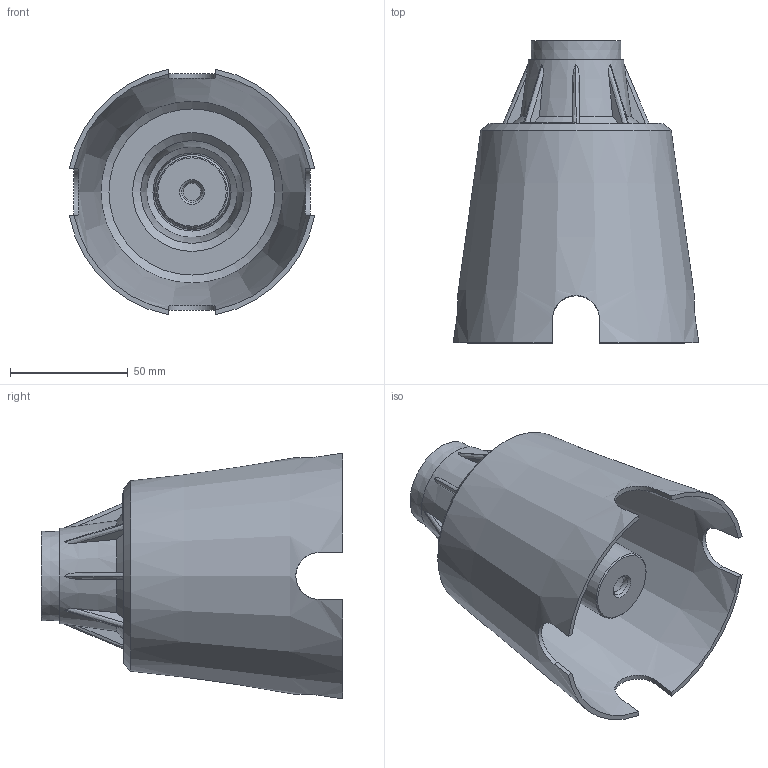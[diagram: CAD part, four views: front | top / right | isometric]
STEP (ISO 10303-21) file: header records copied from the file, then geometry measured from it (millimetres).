
FILE_DESCRIPTION(/* description */ (''),/* implementation_level */ '2;1');
FILE_NAME(/* name */ 'BUIO TRIMLESS.stp',/* time_stamp */ '2024-05-17T09:05:29+02:00',/* author */ ('n.bisotti'),/* organization */ (''),/* preprocessor_version */ 'ST-DEVELOPER v19.2',/* originating_system */ 'Autodesk Inventor 2023',/* authorisation */ '');
FILE_SCHEMA (('AUTOMOTIVE_DESIGN { 1 0 10303 214 3 1 1 }'));
Length unit declared in the file: millimetre
Products named in the file (1): Parte3
Bounding box: 104.1 x 128 x 104.1 mm (x, y, z)
Volume: 116491.5 mm3; surface area: 96889.7 mm2
Topology: 10 solids, 11 shells, 318 faces, 777 edges, 516 vertices
Faces by surface type: plane 140, bspline 116, cone 29, cylinder 28, torus 5
Full cylindrical faces by diameter (mm): 21 x1, 21.5 x1, 22 x2, 22.1 x1, 22.5 x3, 24.3 x1, 24.5 x1, 26.2 x1, 26.5 x2, 26.7 x2, 26.917 x1, 27 x1, 28 x1, 30 x3, 30.8 x1, 34 x2
Entity records: 11195 total; most frequent: CARTESIAN_POINT 4158, ORIENTED_EDGE 1554, DIRECTION 998, EDGE_CURVE 777, VERTEX_POINT 516, EDGE_LOOP 365, LINE 334, VECTOR 334
